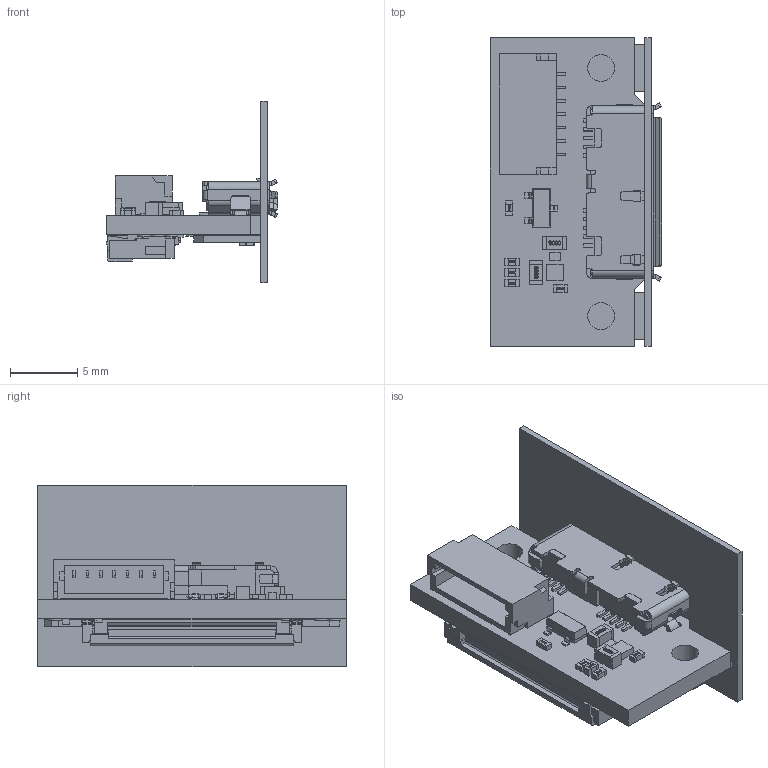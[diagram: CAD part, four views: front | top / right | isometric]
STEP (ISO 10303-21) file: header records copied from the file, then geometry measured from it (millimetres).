
FILE_DESCRIPTION(('Open CASCADE Model'),'2;1');
FILE_NAME('Open CASCADE Shape Model','2022-06-20T13:56:18',('Author'),( 'Open CASCADE'),'Open CASCADE STEP processor 6.8','Open CASCADE 6.8' ,'Unknown');
FILE_SCHEMA(('AUTOMOTIVE_DESIGN { 1 0 10303 214 1 1 1 1 }'));
Length unit declared in the file: millimetre
Products named in the file (51): PCB; Board; Open CASCADE STEP translator 6.8 1.1.1; J2; J-KMMX-B10-SMT1SB30TR_A; R9; R-0402_0.4; C5; 0402_C; R6; R-0603_0.6; R7; J1; J-SM07B-SRSS; TP4; 6287405920; Cylinder; TP1; TP2; TP3; TP5; R5; D2; D-0603-SLED; U1; 6287403200; Extruded; R3; R2; R1; R8; R4; Q1; IC-SOT23-3; J3; J-TF31-24S-0.5SH; TF31-24S-0_5SH-250680.ASM; TF31-24S-0_5SH-250350.PRT; D1; 6287405280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
Assembly tree (65 placements, depth 5):
  PCB
    Board
      Open CASCADE STEP translator 6.8 1.1.1
    J2
      J-KMMX-B10-SMT1SB30TR_A
    R9
      R-0402_0.4
    C5
      0402_C
    R6
      R-0603_0.6
    R7
      R-0603_0.6
    J1
      J-SM07B-SRSS
    TP4
      6287405920
        Cylinder
    TP1
      6287405920
        Cylinder
    TP2
      6287405920
        Cylinder
    TP3
      6287405920
        Cylinder
    TP5
      6287405920
        Cylinder
    R5
      R-0402_0.4
    D2
      D-0603-SLED
    U1
      6287403200
        Extruded
    R3
      R-0402_0.4
    R2
      R-0402_0.4
    R1
      R-0402_0.4
    R8
      R-0402_0.4
    R4
      R-0402_0.4
    Q1
      IC-SOT23-3
    J3
      J-TF31-24S-0.5SH
        TF31-24S-0_5SH-250680.ASM
          TF31-24S-0_5SH-250350.PRT
    D1
      6287405280
        Extruded
    C1
      0402_C
    C2
      C-0603_1.0
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Bounding box: 12.75 x 23 x 13.5 mm (x, y, z)
Volume: 792.8 mm3; surface area: 2496.9 mm2
Topology: 36 solids, 36 shells, 2526 faces, 6817 edges, 4451 vertices
Faces by surface type: plane 1649, bspline 486, cylinder 375, sphere 16
Full cylindrical faces by diameter (mm): 1 x5, 2 x2
Entity records: 72105 total; most frequent: CARTESIAN_POINT 21237, ORIENTED_EDGE 10084, DIRECTION 8656, EDGE_CURVE 5042, LINE 3982, VECTOR 3982, VERTEX_POINT 3305, AXIS2_PLACEMENT_3D 2337
